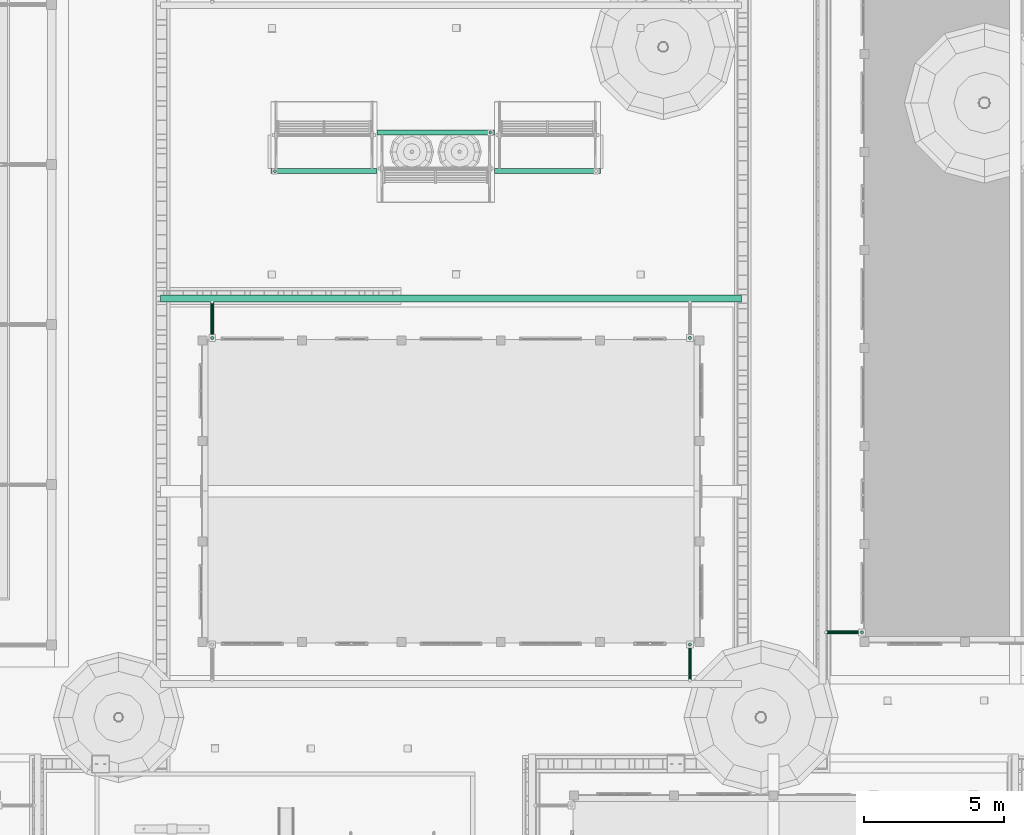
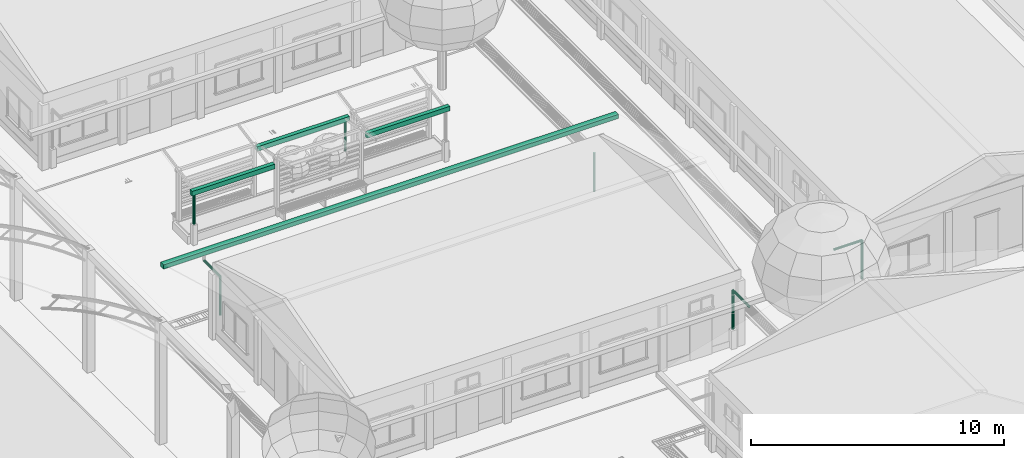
# One storey, part 101 of 166: 13 flow segments.
"""IFC2X3 building model written with IfcOpenShell, lengths in metres."""

import ifcopenshell
import ifcopenshell.guid

model = None  # the IFC model being written
_history = None  # IfcOwnerHistory: only IFC2X3 demands one
_inside = {}  # id of a spatial element -> (the spatial element, [elements in it])
_under = {}  # id of a project, library or spatial element -> (it, [spatial elements below it])
_declared = {}  # id of a project -> (the project, [libraries it declares])
_typed = {}  # id of a type object -> (the type object, [elements of that type])
_made_of = {}  # id of a material, layer set ... -> (it, [elements and type objects made of it])


def new_model(schema):
    """Start an empty IFC model of exactly this schema.

    Asked for "IFC4X3", IfcOpenShell would pick the latest addendum, in which some entities
    have other attributes; the version numbers below select the first issue.
    IFC2X3 requires an IfcOwnerHistory on every rooted entity: one is made here for all.
    """
    global model, _history
    if schema == "IFC4X3":
        model = ifcopenshell.file(schema_version=(4, 3, 0, 0))
    else:
        model = ifcopenshell.file(schema=schema)
    _inside.clear()
    _under.clear()
    _declared.clear()
    _typed.clear()
    _made_of.clear()
    _history = None
    if model.schema == "IFC2X3":
        org = make("IfcOrganization", Name="unknown")
        user = make(
            "IfcPersonAndOrganization",
            ThePerson=make("IfcPerson", FamilyName="unknown"),
            TheOrganization=org,
        )
        app = make(
            "IfcApplication",
            ApplicationDeveloper=org,
            Version="unknown",
            ApplicationFullName="unknown",
            ApplicationIdentifier="unknown",
        )
        _history = make(
            "IfcOwnerHistory",
            OwningUser=user,
            OwningApplication=app,
            ChangeAction="ADDED",
            CreationDate=0,
        )
    return model


def make(cls, **values):
    """One entity of the class cls with the attributes given. An attribute that is None is left unset."""
    return model.create_entity(
        cls, **{name: value for name, value in values.items() if value is not None}
    )


def rooted(cls, **values):
    """An entity with a GlobalId (a new one), such as an element, a storey or a relation."""
    return make(cls, GlobalId=ifcopenshell.guid.new(), OwnerHistory=_history, **values)


def si_unit(unit_type, name, prefix=None):
    """IfcSIUnit, for example si_unit("LENGTHUNIT", "METRE", prefix="MILLI")."""
    return make("IfcSIUnit", UnitType=unit_type, Prefix=prefix, Name=name)


def assignment(units):
    """IfcUnitAssignment: the units of a project."""
    return None if units is None else make("IfcUnitAssignment", Units=units)


def point(xyz):
    """IfcCartesianPoint."""
    return None if xyz is None else make("IfcCartesianPoint", Coordinates=xyz)


def direction(xyz):
    """IfcDirection."""
    return None if xyz is None else make("IfcDirection", DirectionRatios=xyz)


def frame(location, z_axis=None, x_axis=None):
    """IfcAxis2Placement3D, a coordinate frame: its origin and axes. An axis left out is left unset."""
    return make(
        "IfcAxis2Placement3D",
        Location=point(location),
        Axis=direction(z_axis),
        RefDirection=direction(x_axis),
    )


def origin():
    """The frame at (0, 0, 0) with its axes left unset."""
    return frame((0.0, 0.0, 0.0))


def origin_with_axes():
    """The frame at (0, 0, 0) with the z axis (0, 0, 1) and the x axis (1, 0, 0) written out."""
    return frame((0.0, 0.0, 0.0), z_axis=(0.0, 0.0, 1.0), x_axis=(1.0, 0.0, 0.0))


def place(relative_to, where):
    """IfcLocalPlacement: puts the frame where relative to a parent placement (None: the world)."""
    return make(
        "IfcLocalPlacement", PlacementRelTo=relative_to, RelativePlacement=where
    )


def context(
    kind, dimensions, precision=None, world=None, true_north=None, identifier=None
):
    """IfcGeometricRepresentationContext, for example the 3D "Model" context."""
    return make(
        "IfcGeometricRepresentationContext",
        ContextIdentifier=identifier,
        ContextType=kind,
        CoordinateSpaceDimension=dimensions,
        Precision=precision,
        WorldCoordinateSystem=world,
        TrueNorth=true_north,
    )


def subcontext(parent, identifier, kind, view, scale=None):
    """IfcGeometricRepresentationSubContext, for example "Body" below "Model"."""
    return make(
        "IfcGeometricRepresentationSubContext",
        ContextIdentifier=identifier,
        ContextType=kind,
        ParentContext=parent,
        TargetScale=scale,
        TargetView=view,
    )


def project(units=None, contexts=None):
    """IfcProject with its units and contexts."""
    return rooted(
        "IfcProject",
        Name="project",
        RepresentationContexts=contexts,
        UnitsInContext=assignment(units),
    )


def spatial(cls, under=None, at=None, **own):
    """A site, building, storey or space (cls), placed at a placement, below another one or the project."""
    s = rooted(cls, ObjectPlacement=at, **own)
    if under is not None:
        _under.setdefault(under.id(), (under, []))[1].append(s)
    return s


def faces_of(points, faces, orient=None, outer=None):
    """IfcFace entities. A face is a list of loops; a loop is a list of indices into points, from 0.

    orient and outer hold one flag for each loop. By default every Orientation is true, the
    first loop of a face is its IfcFaceOuterBound and the others are IfcFaceBound.
    """
    made = []
    for i, loops in enumerate(faces):
        bounds = []
        for j, loop in enumerate(loops):
            is_outer = j == 0 if outer is None else outer[i][j]
            bounds.append(
                make(
                    "IfcFaceOuterBound" if is_outer else "IfcFaceBound",
                    Bound=make("IfcPolyLoop", Polygon=[points[k] for k in loop]),
                    Orientation=True if orient is None else orient[i][j],
                )
            )
        made.append(make("IfcFace", Bounds=bounds))
    return made


def faceted_brep(points, faces, orient=None, outer=None, voids=None):
    """IfcFacetedBrep: a solid bounded by flat faces; with voids (closed shells), ...WithVoids."""
    shared = [point(p) for p in points]
    hull = make("IfcClosedShell", CfsFaces=faces_of(shared, faces, orient, outer))
    if voids is None:
        return make("IfcFacetedBrep", Outer=hull)
    return make(
        "IfcFacetedBrepWithVoids",
        Outer=hull,
        Voids=[
            make(cls, CfsFaces=faces_of(shared, fs, o, b)) for cls, fs, o, b in voids
        ],
    )


def shape(context_of_items, identifier, shape_type, items):
    """IfcShapeRepresentation: the items that make up one representation, for example the "Body"."""
    return make(
        "IfcShapeRepresentation",
        ContextOfItems=context_of_items,
        RepresentationIdentifier=identifier,
        RepresentationType=shape_type,
        Items=items,
    )


def made_of(thing, what):
    """Note that an element or type object is made of a material, layer set ...; save() writes the relation."""
    if what is not None:
        _made_of.setdefault(what.id(), (what, []))[1].append(thing)
    return thing


def element(
    cls,
    number,
    at=None,
    inside=None,
    cuts=None,
    type_object=None,
    material=None,
    context=None,
    identifier="Body",
    shape_type=None,
    held_by="IfcProductDefinitionShape",
    body=None,
    shapes=None,
    **own,
):
    """One element of the class cls, such as IfcWall. Its Tag is "e" and its number.

    at: its placement. inside: the storey or other place that contains it. cuts: it is an
    opening in that element (IfcRelVoidsElement). A single representation is given by context,
    identifier, shape_type and body (its items); several are given by shapes. held_by: the class
    of the entity that holds the representations. save() writes the other relations.
    """
    e = rooted(cls, Tag="e%d" % number, ObjectPlacement=at, **own)
    if body is not None:
        shapes = [shape(context, identifier, shape_type, body)]
    if shapes is not None:
        e.Representation = make(held_by, Representations=shapes)
    if inside is not None:
        _inside.setdefault(inside.id(), (inside, []))[1].append(e)
    if cuts is not None:
        rooted(
            "IfcRelVoidsElement", RelatingBuildingElement=cuts, RelatedOpeningElement=e
        )
    if type_object is not None:
        _typed.setdefault(type_object.id(), (type_object, []))[1].append(e)
    return made_of(e, material)


def aggregate(whole, parts):
    """IfcRelAggregates: a whole, such as a stair, and the parts it consists of."""
    return rooted("IfcRelAggregates", RelatingObject=whole, RelatedObjects=parts)


def save(model, path):
    """Write the relations noted so far, then the file.

    IfcRelAggregates (storeys below a building ...), IfcRelContainedInSpatialStructure (elements
    in a storey), IfcRelDefinesByType, IfcRelAssociatesMaterial and IfcRelDeclares: one each for
    every whole, place, type object, material and project.
    """
    for whole, parts in _under.values():
        aggregate(whole, parts)
    for where, things in _inside.values():
        rooted(
            "IfcRelContainedInSpatialStructure",
            RelatedElements=things,
            RelatingStructure=where,
        )
    for kind, things in _typed.values():
        rooted("IfcRelDefinesByType", RelatedObjects=things, RelatingType=kind)
    for what, things in _made_of.values():
        rooted("IfcRelAssociatesMaterial", RelatedObjects=things, RelatingMaterial=what)
    for by, libraries in _declared.values():
        rooted("IfcRelDeclares", RelatingContext=by, RelatedDefinitions=libraries)
    model.write(path)


model = new_model("IFC2X3")

# Units and contexts
model_context = context("Model", 3, precision=1e-05, world=origin_with_axes())
body_context = subcontext(model_context, "Body", "Model", "MODEL_VIEW")
ifc_project = project(units=[si_unit("LENGTHUNIT", "METRE"), si_unit("AREAUNIT", "SQUARE_METRE"), si_unit("VOLUMEUNIT", "CUBIC_METRE"), si_unit("PLANEANGLEUNIT", "RADIAN")], contexts=[model_context])

# Site, building, storey
site_placement = place(None, origin_with_axes())
site = spatial("IfcSite", under=ifc_project, at=site_placement, Name="Predio Los Mangos - Morales, San Martín", CompositionType="ELEMENT")
building_placement = place(site_placement, origin())
building = spatial("IfcBuilding", under=site, at=building_placement, Name="Hogar de Refugio Temporal", CompositionType="ELEMENT")
storey_placement = place(building_placement, origin())
storey = spatial("IfcBuildingStorey", under=building, at=storey_placement, Name="NIVEL 1 (NPT +0.00)", CompositionType="ELEMENT", Elevation=0.0)

# Flow segments
flow_segment_1_placement = place(storey_placement, origin())
element("IfcFlowSegment", 1, at=flow_segment_1_placement, inside=storey, Name="E-06_canaleta", ObjectType="Canaleta", context=body_context, shape_type="Brep", body=[
    faceted_brep([(30.5, 104.88, 3.13), (30.5, 105.12, 3.13), (51.3, 105.12, 3.13), (51.3, 104.88, 3.13), (30.5, 104.88, 3.33), (51.3, 104.88, 3.33), (51.3, 105.12, 3.33), (30.5, 105.12, 3.33)], [[[0, 1, 2, 3]], [[4, 5, 6, 7]], [[0, 3, 5, 4]], [[3, 2, 6, 5]], [[2, 1, 7, 6]], [[1, 0, 4, 7]]]),
])
flow_segment_2_placement = place(storey_placement, origin())
element("IfcFlowSegment", 2, at=flow_segment_2_placement, inside=storey, Name="montante_desvio", ObjectType="Montante PVC 4\"", context=body_context, shape_type="Brep", body=[
    faceted_brep([(49.45, 91.32, 2.965), (49.45, 92.61, 2.965), (49.4225, 92.61, 2.9576), (49.4225, 91.32, 2.9576), (49.4024, 92.61, 2.9375), (49.4024, 91.32, 2.9375), (49.395, 92.61, 2.91), (49.395, 91.32, 2.91), (49.4024, 92.61, 2.8825), (49.4024, 91.32, 2.8825), (49.4225, 92.61, 2.8624), (49.4225, 91.32, 2.8624), (49.45, 92.61, 2.855), (49.45, 91.32, 2.855), (49.4775, 92.61, 2.8624), (49.4775, 91.32, 2.8624), (49.4976, 92.61, 2.8825), (49.4976, 91.32, 2.8825), (49.505, 92.61, 2.91), (49.505, 91.32, 2.91), (49.4976, 92.61, 2.9375), (49.4976, 91.32, 2.9375), (49.4775, 92.61, 2.9576), (49.4775, 91.32, 2.9576)], [[[0, 1, 2, 3]], [[3, 2, 4, 5]], [[5, 4, 6, 7]], [[7, 6, 8, 9]], [[9, 8, 10, 11]], [[11, 10, 12, 13]], [[13, 12, 14, 15]], [[15, 14, 16, 17]], [[17, 16, 18, 19]], [[19, 18, 20, 21]], [[2, 1, 22, 20, 18, 16, 14, 12, 10, 8, 6, 4]], [[21, 20, 22, 23]], [[23, 22, 1, 0]], [[0, 3, 5, 7, 9, 11, 13, 15, 17, 19, 21, 23]]]),
])
flow_segment_3_placement = place(storey_placement, origin())
element("IfcFlowSegment", 3, at=flow_segment_3_placement, inside=storey, Name="montante_bajada", ObjectType="Montante PVC 4\"", context=body_context, shape_type="Brep", body=[
    faceted_brep([(49.45, 92.665, 2.91), (49.45, 92.665, 1.05), (49.4225, 92.6576, 1.05), (49.4225, 92.6576, 2.91), (49.4024, 92.6375, 1.05), (49.4024, 92.6375, 2.91), (49.395, 92.61, 1.05), (49.395, 92.61, 2.91), (49.4024, 92.5825, 1.05), (49.4024, 92.5825, 2.91), (49.4225, 92.5624, 1.05), (49.4225, 92.5624, 2.91), (49.45, 92.555, 1.05), (49.45, 92.555, 2.91), (49.4775, 92.5624, 1.05), (49.4775, 92.5624, 2.91), (49.4976, 92.5825, 1.05), (49.4976, 92.5825, 2.91), (49.505, 92.61, 1.05), (49.505, 92.61, 2.91), (49.4976, 92.6375, 1.05), (49.4976, 92.6375, 2.91), (49.4775, 92.6576, 1.05), (49.4775, 92.6576, 2.91)], [[[0, 1, 2, 3]], [[3, 2, 4, 5]], [[5, 4, 6, 7]], [[7, 6, 8, 9]], [[9, 8, 10, 11]], [[11, 10, 12, 13]], [[13, 12, 14, 15]], [[15, 14, 16, 17]], [[17, 16, 18, 19]], [[19, 18, 20, 21]], [[2, 1, 22, 20, 18, 16, 14, 12, 10, 8, 6, 4]], [[21, 20, 22, 23]], [[23, 22, 1, 0]], [[0, 3, 5, 7, 9, 11, 13, 15, 17, 19, 21, 23]]]),
])
flow_segment_4_placement = place(storey_placement, origin())
element("IfcFlowSegment", 4, at=flow_segment_4_placement, inside=storey, Name="montante_desvio", ObjectType="Montante PVC 4\"", context=body_context, shape_type="Brep", body=[
    faceted_brep([(32.35, 104.88, 2.965), (32.35, 103.59, 2.965), (32.3775, 103.59, 2.9576), (32.3775, 104.88, 2.9576), (32.3976, 103.59, 2.9375), (32.3976, 104.88, 2.9375), (32.405, 103.59, 2.91), (32.405, 104.88, 2.91), (32.3976, 103.59, 2.8825), (32.3976, 104.88, 2.8825), (32.3775, 103.59, 2.8624), (32.3775, 104.88, 2.8624), (32.35, 103.59, 2.855), (32.35, 104.88, 2.855), (32.3225, 103.59, 2.8624), (32.3225, 104.88, 2.8624), (32.3024, 103.59, 2.8825), (32.3024, 104.88, 2.8825), (32.295, 103.59, 2.91), (32.295, 104.88, 2.91), (32.3024, 103.59, 2.9375), (32.3024, 104.88, 2.9375), (32.3225, 103.59, 2.9576), (32.3225, 104.88, 2.9576)], [[[0, 1, 2, 3]], [[3, 2, 4, 5]], [[5, 4, 6, 7]], [[7, 6, 8, 9]], [[9, 8, 10, 11]], [[11, 10, 12, 13]], [[13, 12, 14, 15]], [[15, 14, 16, 17]], [[17, 16, 18, 19]], [[19, 18, 20, 21]], [[2, 1, 22, 20, 18, 16, 14, 12, 10, 8, 6, 4]], [[21, 20, 22, 23]], [[23, 22, 1, 0]], [[0, 3, 5, 7, 9, 11, 13, 15, 17, 19, 21, 23]]]),
])
flow_segment_5_placement = place(storey_placement, origin())
element("IfcFlowSegment", 5, at=flow_segment_5_placement, inside=storey, Name="montante_bajada", ObjectType="Montante PVC 4\"", context=body_context, shape_type="Brep", body=[
    faceted_brep([(32.35, 103.645, 2.91), (32.35, 103.645, 1.05), (32.3225, 103.6376, 1.05), (32.3225, 103.6376, 2.91), (32.3024, 103.6175, 1.05), (32.3024, 103.6175, 2.91), (32.295, 103.59, 1.05), (32.295, 103.59, 2.91), (32.3024, 103.5625, 1.05), (32.3024, 103.5625, 2.91), (32.3225, 103.5424, 1.05), (32.3225, 103.5424, 2.91), (32.35, 103.535, 1.05), (32.35, 103.535, 2.91), (32.3775, 103.5424, 1.05), (32.3775, 103.5424, 2.91), (32.3976, 103.5625, 1.05), (32.3976, 103.5625, 2.91), (32.405, 103.59, 1.05), (32.405, 103.59, 2.91), (32.3976, 103.6175, 1.05), (32.3976, 103.6175, 2.91), (32.3775, 103.6376, 1.05), (32.3775, 103.6376, 2.91)], [[[0, 1, 2, 3]], [[3, 2, 4, 5]], [[5, 4, 6, 7]], [[7, 6, 8, 9]], [[9, 8, 10, 11]], [[11, 10, 12, 13]], [[13, 12, 14, 15]], [[15, 14, 16, 17]], [[17, 16, 18, 19]], [[19, 18, 20, 21]], [[2, 1, 22, 20, 18, 16, 14, 12, 10, 8, 6, 4]], [[21, 20, 22, 23]], [[23, 22, 1, 0]], [[0, 3, 5, 7, 9, 11, 13, 15, 17, 19, 21, 23]]]),
])
flow_segment_6_placement = place(storey_placement, origin())
element("IfcFlowSegment", 6, at=flow_segment_6_placement, inside=storey, Name="montante_bajada", ObjectType="Montante PVC 4\"", context=body_context, shape_type="Brep", body=[
    faceted_brep([(49.45, 103.645, 2.91), (49.45, 103.645, 1.05), (49.4225, 103.6376, 1.05), (49.4225, 103.6376, 2.91), (49.4024, 103.6175, 1.05), (49.4024, 103.6175, 2.91), (49.395, 103.59, 1.05), (49.395, 103.59, 2.91), (49.4024, 103.5625, 1.05), (49.4024, 103.5625, 2.91), (49.4225, 103.5424, 1.05), (49.4225, 103.5424, 2.91), (49.45, 103.535, 1.05), (49.45, 103.535, 2.91), (49.4775, 103.5424, 1.05), (49.4775, 103.5424, 2.91), (49.4976, 103.5625, 1.05), (49.4976, 103.5625, 2.91), (49.505, 103.59, 1.05), (49.505, 103.59, 2.91), (49.4976, 103.6175, 1.05), (49.4976, 103.6175, 2.91), (49.4775, 103.6376, 1.05), (49.4775, 103.6376, 2.91)], [[[0, 1, 2, 3]], [[3, 2, 4, 5]], [[5, 4, 6, 7]], [[7, 6, 8, 9]], [[9, 8, 10, 11]], [[11, 10, 12, 13]], [[13, 12, 14, 15]], [[15, 14, 16, 17]], [[17, 16, 18, 19]], [[19, 18, 20, 21]], [[2, 1, 22, 20, 18, 16, 14, 12, 10, 8, 6, 4]], [[21, 20, 22, 23]], [[23, 22, 1, 0]], [[0, 3, 5, 7, 9, 11, 13, 15, 17, 19, 21, 23]]]),
])
flow_segment_7_placement = place(storey_placement, origin())
element("IfcFlowSegment", 7, at=flow_segment_7_placement, inside=storey, Name="montante_desvio", ObjectType="Montante PVC 4\"", context=body_context, shape_type="Brep", body=[
    faceted_brep([(54.32, 93.05, 2.965), (55.61, 93.05, 2.965), (55.61, 93.0775, 2.9576), (54.32, 93.0775, 2.9576), (55.61, 93.0976, 2.9375), (54.32, 93.0976, 2.9375), (55.61, 93.105, 2.91), (54.32, 93.105, 2.91), (55.61, 93.0976, 2.8825), (54.32, 93.0976, 2.8825), (55.61, 93.0775, 2.8624), (54.32, 93.0775, 2.8624), (55.61, 93.05, 2.855), (54.32, 93.05, 2.855), (55.61, 93.0225, 2.8624), (54.32, 93.0225, 2.8624), (55.61, 93.0024, 2.8825), (54.32, 93.0024, 2.8825), (55.61, 92.995, 2.91), (54.32, 92.995, 2.91), (55.61, 93.0024, 2.9375), (54.32, 93.0024, 2.9375), (55.61, 93.0225, 2.9576), (54.32, 93.0225, 2.9576)], [[[0, 1, 2, 3]], [[3, 2, 4, 5]], [[5, 4, 6, 7]], [[7, 6, 8, 9]], [[9, 8, 10, 11]], [[11, 10, 12, 13]], [[13, 12, 14, 15]], [[15, 14, 16, 17]], [[17, 16, 18, 19]], [[19, 18, 20, 21]], [[2, 1, 22, 20, 18, 16, 14, 12, 10, 8, 6, 4]], [[21, 20, 22, 23]], [[23, 22, 1, 0]], [[0, 3, 5, 7, 9, 11, 13, 15, 17, 19, 21, 23]]]),
])
flow_segment_8_placement = place(storey_placement, origin())
element("IfcFlowSegment", 8, at=flow_segment_8_placement, inside=storey, Name="montante_bajada", ObjectType="Montante PVC 4\"", context=body_context, shape_type="Brep", body=[
    faceted_brep([(55.61, 93.105, 2.91), (55.61, 93.105, 1.05), (55.5825, 93.0976, 1.05), (55.5825, 93.0976, 2.91), (55.5624, 93.0775, 1.05), (55.5624, 93.0775, 2.91), (55.555, 93.05, 1.05), (55.555, 93.05, 2.91), (55.5624, 93.0225, 1.05), (55.5624, 93.0225, 2.91), (55.5825, 93.0024, 1.05), (55.5825, 93.0024, 2.91), (55.61, 92.995, 1.05), (55.61, 92.995, 2.91), (55.6375, 93.0024, 1.05), (55.6375, 93.0024, 2.91), (55.6576, 93.0225, 1.05), (55.6576, 93.0225, 2.91), (55.665, 93.05, 1.05), (55.665, 93.05, 2.91), (55.6576, 93.0775, 1.05), (55.6576, 93.0775, 2.91), (55.6375, 93.0976, 1.05), (55.6375, 93.0976, 2.91)], [[[0, 1, 2, 3]], [[3, 2, 4, 5]], [[5, 4, 6, 7]], [[7, 6, 8, 9]], [[9, 8, 10, 11]], [[11, 10, 12, 13]], [[13, 12, 14, 15]], [[15, 14, 16, 17]], [[17, 16, 18, 19]], [[19, 18, 20, 21]], [[2, 1, 22, 20, 18, 16, 14, 12, 10, 8, 6, 4]], [[21, 20, 22, 23]], [[23, 22, 1, 0]], [[0, 3, 5, 7, 9, 11, 13, 15, 17, 19, 21, 23]]]),
])
flow_segment_9_placement = place(storey_placement, origin())
element("IfcFlowSegment", 9, at=flow_segment_9_placement, inside=storey, Name="oc01_canaleta", ObjectType="Canaleta", context=body_context, shape_type="Brep", body=[
    faceted_brep([(46.245, 109.65, 2.49), (46.245, 109.47, 2.49), (42.455, 109.47, 2.49), (42.455, 109.65, 2.49), (46.245, 109.65, 2.71), (42.455, 109.65, 2.71), (42.455, 109.47, 2.71), (46.245, 109.47, 2.71)], [[[0, 1, 2, 3]], [[4, 5, 6, 7]], [[0, 3, 5, 4]], [[3, 2, 6, 5]], [[2, 1, 7, 6]], [[1, 0, 4, 7]]]),
])
flow_segment_10_placement = place(storey_placement, origin())
element("IfcFlowSegment", 10, at=flow_segment_10_placement, inside=storey, Name="oc01_canaleta", ObjectType="Canaleta", context=body_context, shape_type="Brep", body=[
    faceted_brep([(42.455, 111.03, 2.49), (42.455, 110.85, 2.49), (38.245, 110.85, 2.49), (38.245, 111.03, 2.49), (42.455, 111.03, 2.71), (38.245, 111.03, 2.71), (38.245, 110.85, 2.71), (42.455, 110.85, 2.71)], [[[0, 1, 2, 3]], [[4, 5, 6, 7]], [[0, 3, 5, 4]], [[3, 2, 6, 5]], [[2, 1, 7, 6]], [[1, 0, 4, 7]]]),
])
flow_segment_11_placement = place(storey_placement, origin())
element("IfcFlowSegment", 11, at=flow_segment_11_placement, inside=storey, Name="oc01_bajada", ObjectType="Montante PVC 4\"", context=body_context, shape_type="Brep", body=[
    faceted_brep([(42.305, 110.995, 2.49), (42.305, 110.995, 1.05), (42.2775, 110.9876, 1.05), (42.2775, 110.9876, 2.49), (42.2574, 110.9675, 1.05), (42.2574, 110.9675, 2.49), (42.25, 110.94, 1.05), (42.25, 110.94, 2.49), (42.2574, 110.9125, 1.05), (42.2574, 110.9125, 2.49), (42.2775, 110.8924, 1.05), (42.2775, 110.8924, 2.49), (42.305, 110.885, 1.05), (42.305, 110.885, 2.49), (42.3325, 110.8924, 1.05), (42.3325, 110.8924, 2.49), (42.3526, 110.9125, 1.05), (42.3526, 110.9125, 2.49), (42.36, 110.94, 1.05), (42.36, 110.94, 2.49), (42.3526, 110.9675, 1.05), (42.3526, 110.9675, 2.49), (42.3325, 110.9876, 1.05), (42.3325, 110.9876, 2.49)], [[[0, 1, 2, 3]], [[3, 2, 4, 5]], [[5, 4, 6, 7]], [[7, 6, 8, 9]], [[9, 8, 10, 11]], [[11, 10, 12, 13]], [[13, 12, 14, 15]], [[15, 14, 16, 17]], [[17, 16, 18, 19]], [[19, 18, 20, 21]], [[2, 1, 22, 20, 18, 16, 14, 12, 10, 8, 6, 4]], [[21, 20, 22, 23]], [[23, 22, 1, 0]], [[0, 3, 5, 7, 9, 11, 13, 15, 17, 19, 21, 23]]]),
])
flow_segment_12_placement = place(storey_placement, origin())
element("IfcFlowSegment", 12, at=flow_segment_12_placement, inside=storey, Name="oc01_canaleta", ObjectType="Canaleta", context=body_context, shape_type="Brep", body=[
    faceted_brep([(38.245, 109.65, 2.49), (38.245, 109.47, 2.49), (34.455, 109.47, 2.49), (34.455, 109.65, 2.49), (38.245, 109.65, 2.71), (34.455, 109.65, 2.71), (34.455, 109.47, 2.71), (38.245, 109.47, 2.71)], [[[0, 1, 2, 3]], [[4, 5, 6, 7]], [[0, 3, 5, 4]], [[3, 2, 6, 5]], [[2, 1, 7, 6]], [[1, 0, 4, 7]]]),
])
flow_segment_13_placement = place(storey_placement, origin())
element("IfcFlowSegment", 13, at=flow_segment_13_placement, inside=storey, Name="oc01_bajada", ObjectType="Montante PVC 4\"", context=body_context, shape_type="Brep", body=[
    faceted_brep([(34.595, 109.615, 2.49), (34.595, 109.615, 1.05), (34.5675, 109.6076, 1.05), (34.5675, 109.6076, 2.49), (34.5474, 109.5875, 1.05), (34.5474, 109.5875, 2.49), (34.54, 109.56, 1.05), (34.54, 109.56, 2.49), (34.5474, 109.5325, 1.05), (34.5474, 109.5325, 2.49), (34.5675, 109.5124, 1.05), (34.5675, 109.5124, 2.49), (34.595, 109.505, 1.05), (34.595, 109.505, 2.49), (34.6225, 109.5124, 1.05), (34.6225, 109.5124, 2.49), (34.6426, 109.5325, 1.05), (34.6426, 109.5325, 2.49), (34.65, 109.56, 1.05), (34.65, 109.56, 2.49), (34.6426, 109.5875, 1.05), (34.6426, 109.5875, 2.49), (34.6225, 109.6076, 1.05), (34.6225, 109.6076, 2.49)], [[[0, 1, 2, 3]], [[3, 2, 4, 5]], [[5, 4, 6, 7]], [[7, 6, 8, 9]], [[9, 8, 10, 11]], [[11, 10, 12, 13]], [[13, 12, 14, 15]], [[15, 14, 16, 17]], [[17, 16, 18, 19]], [[19, 18, 20, 21]], [[2, 1, 22, 20, 18, 16, 14, 12, 10, 8, 6, 4]], [[21, 20, 22, 23]], [[23, 22, 1, 0]], [[0, 3, 5, 7, 9, 11, 13, 15, 17, 19, 21, 23]]]),
])

save(model, "model.ifc")
